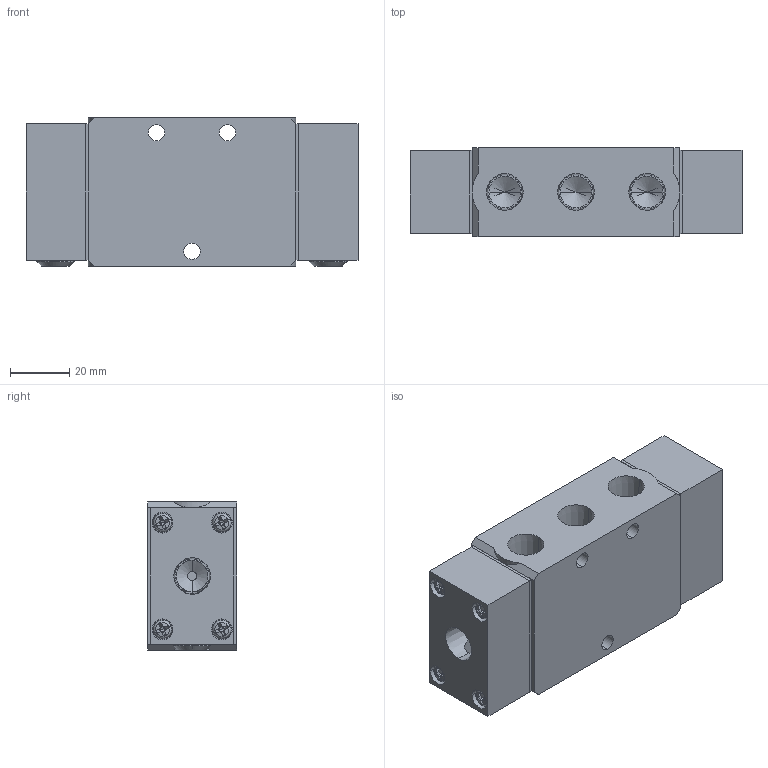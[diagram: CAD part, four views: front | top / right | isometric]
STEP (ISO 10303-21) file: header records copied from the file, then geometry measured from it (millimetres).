
FILE_DESCRIPTION (( 'STEP AP203' ), '1' );
FILE_NAME ('VP2406-02.STEP', '2016-01-13T18:41:38', ( '' ), ( '' ), 'SwSTEP 2.0', 'SolidWorks 2014', '' );
FILE_SCHEMA (( 'CONFIG_CONTROL_DESIGN' ));
Length unit declared in the file: millimetre
Products named in the file (7): 止付1-4; VS2306-MARK; VS2406-1=02; VP2406-02; VS2306-4; M4; VS2306-2
Assembly tree (16 placements, depth 2):
  VP2406-02
    VS2306-2  x2
    M4  x8
    止付1-4  x2
    VS2306-MARK
    VS2406-1=02
    VS2306-4  x2
Bounding box: 112 x 30.1 x 50 mm (x, y, z)
Volume: 140904.8 mm3; surface area: 42164.2 mm2
Topology: 23 solids, 23 shells, 711 faces, 1755 edges, 1103 vertices
Faces by surface type: plane 397, cone 120, cylinder 103, bspline 39, torus 32, sphere 20
Entity records: 14790 total; most frequent: CARTESIAN_POINT 4297, ORIENTED_EDGE 1978, DIRECTION 1863, EDGE_CURVE 989, VECTOR 677, LINE 677, VERTEX_POINT 649, AXIS2_PLACEMENT_3D 593
